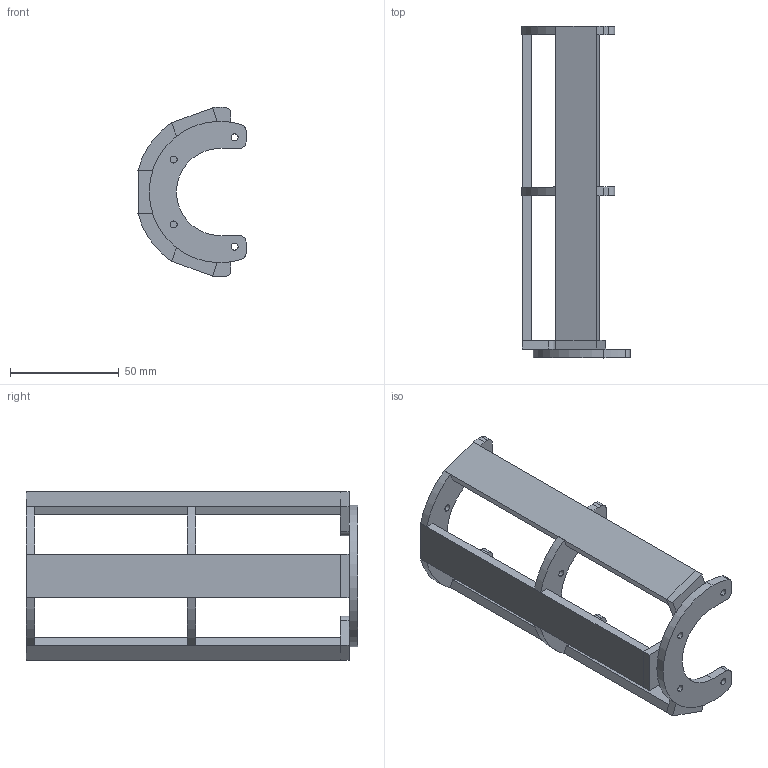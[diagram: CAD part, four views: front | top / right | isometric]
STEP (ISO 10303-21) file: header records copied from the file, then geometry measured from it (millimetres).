
FILE_DESCRIPTION (( 'STEP AP203' ), '1' );
FILE_NAME ('湍謫嘐隅殤.STEP', '2024-11-01T11:56:02', ( '' ), ( '' ), 'SwSTEP 2.0', 'SolidWorks 2018', '' );
FILE_SCHEMA (( 'CONFIG_CONTROL_DESIGN' ));
Length unit declared in the file: millimetre
Products named in the file (1): 湍謫嘐隅殤
Bounding box: 49.7 x 152.5 x 78 mm (x, y, z)
Volume: 53481.6 mm3; surface area: 35041 mm2
Topology: 9 solids, 9 shells, 131 faces, 339 edges, 226 vertices
Faces by surface type: plane 72, cylinder 59
Entity records: 4140 total; most frequent: DIRECTION 721, CARTESIAN_POINT 697, ORIENTED_EDGE 678, EDGE_CURVE 339, AXIS2_PLACEMENT_3D 250, VERTEX_POINT 226, LINE 221, VECTOR 221
